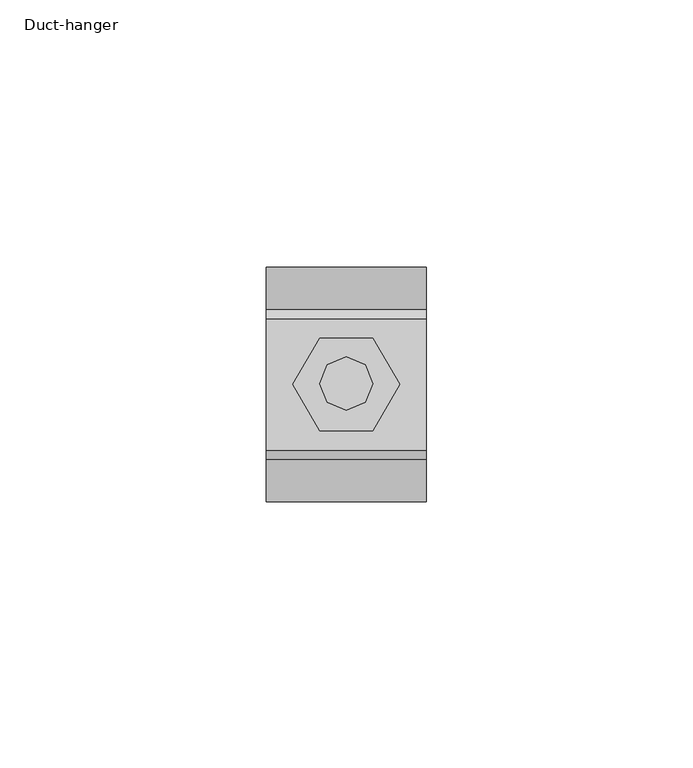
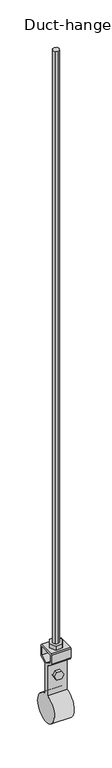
"""IFC4 building model written with IfcOpenShell, lengths in millimetres: proxy geometry, Duct-hanger : Φ44."""

from ifc_helpers import new_model, si_unit, point, frame, frame_2d, origin, place, context, project, spatial, polyline, circle_curve, trimmed, segment, composite_curve, outline, extrude, source, transform, mapped, element, save


def duct_hanger_026c5575(model_context):
    return source(origin(), model_context, "Body", "SweptSolid", [
        extrude(outline(polyline([(3.5351563, 3.5351563), (5.0003052, 0.0), (3.5351563, -3.5351563), (0.0, -5.0), (-3.5354614, -3.5351563), (-5.0, 0.0), (-3.5354614, 3.5351563), (0.0, 5.0), (3.5351563, 3.5351563)])), frame((0.0, 0.0, -958.2800819), z_axis=(0.0, 0.0, 1.0), x_axis=(1.0, 0.0, 0.0)), (0.0, 0.0, 1.0), 958.2800819),
        extrude(outline(polyline([(5.0, 8.659668), (10.0, 0.0), (5.0, -8.659668), (-5.0, -8.659668), (-10.0, 0.0), (-5.0, 8.659668), (5.0, 8.659668)])), frame((0.0, 0.0, -958.2800819), z_axis=(0.0, 0.0, 1.0), x_axis=(1.0, 0.0, 0.0)), (0.0, 0.0, 1.0), 6.6101074),
        extrude(outline(polyline([(-995.2954116, -3.5931396), (-1001.5188613, -7.1862793), (-1007.742311, -3.5931396), (-1007.742311, 3.5931396), (-1001.5188613, 7.1862793), (-995.2954116, 3.5931396), (-995.2954116, -3.5931396)])), frame((0.0, -8.2446289, 0.0), z_axis=(0.0, 1.0, 0.0), x_axis=(0.0, 0.0, 1.0)), (0.0, 0.0, 1.0), 16.4892578),
        extrude(outline(composite_curve([segment(polyline([(14.0234375, -959.9487831), (14.0234375, -974.5984413), (12.8845215, -976.6647865), (4.6337891, -981.8726112), (3.494873, -983.9395668), (3.494873, -1031.5188613)]), True, "CONTINUOUS"), segment(trimmed(circle_curve(frame_2d((0.0, -1053.2394935)), 22.0), [point((3.494873, -1031.5188613))], [point((-3.494873, -1031.5188613))], False, "CARTESIAN"), True, "CONTINUOUS"), segment(polyline([(-3.494873, -1031.5188613), (-3.494873, -983.9395668), (-4.6337891, -981.8726112), (-12.8845215, -976.6647865), (-14.0234375, -974.5984413), (-14.0234375, -959.9487831), (-12.3547363, -958.2800819), (12.3547363, -958.2800819), (14.0234375, -959.9487831)]), True, "CONTINUOUS")], self_intersect=False), holes=[polyline([(0.0, -980.5464582), (10.7531738, -973.7598182), (10.7531738, -961.5335609), (-10.7531738, -961.5335609), (-10.7531738, -973.7598182), (0.0, -980.5464582)])]), frame((-15.0, 0.0, 0.0), z_axis=(1.0, 0.0, 0.0), x_axis=(0.0, 1.0, 0.0)), (0.0, 0.0, 1.0), 30.0),
    ])


if __name__ == "__main__":
    model = new_model("IFC4")
    model_context = context("Model", 3, world=origin())
    ifc_project = project(units=[si_unit("LENGTHUNIT", "METRE", prefix="MILLI")], contexts=[model_context])
    site = spatial("IfcSite", under=ifc_project)
    building = spatial("IfcBuilding", under=site)
    placement = place(None, origin())
    duct_hanger_shape = duct_hanger_026c5575(model_context)
    element("IfcBuildingElementProxy", 1, Name="Duct-hanger : Φ44", ObjectType="Duct-hanger : Φ44", at=placement, inside=building, context=model_context, shape_type="MappedRepresentation", body=[
        mapped(duct_hanger_shape, transform((0.0, 0.0, 0.0), x_axis=(1.0, 0.0, 0.0), y_axis=(0.0, 1.0, 0.0), z_axis=(0.0, 0.0, 1.0))),
    ])
    save(model, "model.ifc")
